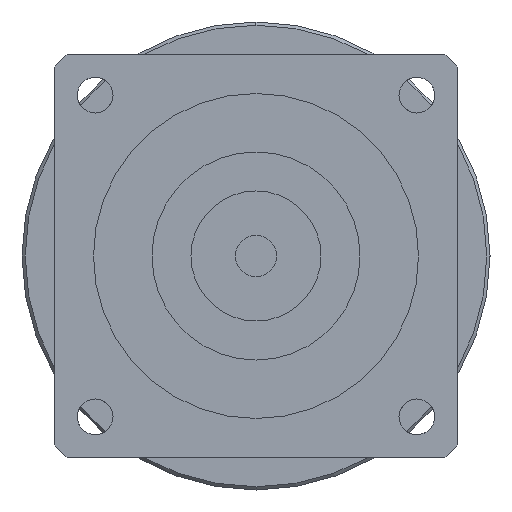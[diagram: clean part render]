
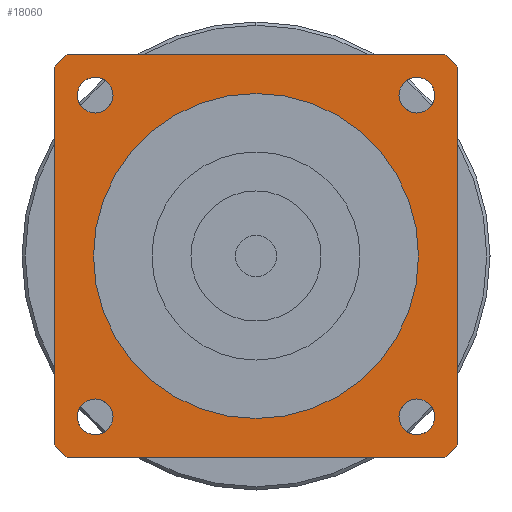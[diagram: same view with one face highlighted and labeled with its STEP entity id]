
A CAD part, left-side view. The second image highlights one B-rep face of the part: STEP entity #18060.
In plain terms, the highlighted planar face has unit normal (-1, 0, 0) as drawn and (0, 0, -1) by its records, which use the part's own axes.
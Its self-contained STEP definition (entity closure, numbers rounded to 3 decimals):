
#12210=CARTESIAN_POINT('',(29.073,31.,-96.5));
#12220=VERTEX_POINT('',#12210);
#12250=CARTESIAN_POINT('',(0.,0.,
-96.5));
#12260=DIRECTION('',(0.,0.,1.));
#12270=DIRECTION('',(0.,-1.,0.));
#12280=AXIS2_PLACEMENT_3D('',#12250,#12260,#12270);
#12290=CIRCLE('',#12280,42.5);
#12300=CARTESIAN_POINT('',(31.,29.073,-96.5));
#12310=VERTEX_POINT('',#12300);
#12320=EDGE_CURVE('',#12310,#12220,#12290,.T.);
#12630=CARTESIAN_POINT('',(-31.,29.073,-96.5));
#12640=VERTEX_POINT('',#12630);
#12820=CARTESIAN_POINT('',(-31.,-29.073,-96.5));
#12830=VERTEX_POINT('',#12820);
#12860=CARTESIAN_POINT('',(-31.,31.,-96.5));
#12870=DIRECTION('',(0.,-1.,0.));
#12880=VECTOR('',#12870,1000.);
#12890=LINE('',#12860,#12880);
#12900=EDGE_CURVE('',#12640,#12830,#12890,.T.);
#15260=CARTESIAN_POINT('',(-29.073,-31.,-96.5));
#15270=VERTEX_POINT('',#15260);
#15300=CARTESIAN_POINT('',(0.,0.,
-96.5));
#15310=DIRECTION('',(0.,0.,1.));
#15320=DIRECTION('',(0.,-1.,0.));
#15330=AXIS2_PLACEMENT_3D('',#15300,#15310,#15320);
#15340=CIRCLE('',#15330,42.5);
#15350=EDGE_CURVE('',#12830,#15270,#15340,.T.);
#15840=CARTESIAN_POINT('',(29.073,-31.,-96.5));
#15850=VERTEX_POINT('',#15840);
#15930=CARTESIAN_POINT('',(31.,-29.073,-96.5));
#15940=VERTEX_POINT('',#15930);
#15970=CARTESIAN_POINT('',(0.,0.,
-96.5));
#15980=DIRECTION('',(0.,0.,1.));
#15990=DIRECTION('',(0.,-1.,0.));
#16000=AXIS2_PLACEMENT_3D('',#15970,#15980,#15990);
#16010=CIRCLE('',#16000,42.5);
#16020=EDGE_CURVE('',#15850,#15940,#16010,.T.);
#16280=CARTESIAN_POINT('',(-29.073,31.,-96.5));
#16290=VERTEX_POINT('',#16280);
#16320=CARTESIAN_POINT('',(31.,31.,-96.5));
#16330=DIRECTION('',(-1.,0.,0.));
#16340=VECTOR('',#16330,1000.);
#16350=LINE('',#16320,#16340);
#16360=EDGE_CURVE('',#12220,#16290,#16350,.T.);
#16760=CARTESIAN_POINT('',(0.,0.,
-96.5));
#16770=DIRECTION('',(0.,0.,1.));
#16780=DIRECTION('',(0.,-1.,0.));
#16790=AXIS2_PLACEMENT_3D('',#16760,#16770,#16780);
#16800=CIRCLE('',#16790,42.5);
#16810=EDGE_CURVE('',#16290,#12640,#16800,.T.);
#16860=CARTESIAN_POINT('',(-31.,31.,-96.5));
#16870=DIRECTION('',(0.,0.,1.));
#16880=DIRECTION('',(-1.,0.,0.));
#16890=AXIS2_PLACEMENT_3D('',#16860,#16870,#16880);
#16900=PLANE('',#16890);
#16910=CARTESIAN_POINT('',(24.749,-24.749,-96.5));
#16920=DIRECTION('',(0.,0.,-1.));
#16930=DIRECTION('',(1.,0.,0.));
#16940=AXIS2_PLACEMENT_3D('',#16910,#16920,#16930);
#16950=CIRCLE('',#16940,2.75);
#16960=CARTESIAN_POINT('',(27.499,-24.749,-96.5));
#16970=VERTEX_POINT('',#16960);
#16980=CARTESIAN_POINT('',(24.749,-27.499,-96.5));
#16990=VERTEX_POINT('',#16980);
#17000=EDGE_CURVE('',#16970,#16990,#16950,.T.);
#17010=ORIENTED_EDGE('',*,*,#17000,.F.);
#17020=CARTESIAN_POINT('',(24.749,-21.999,-96.5));
#17030=VERTEX_POINT('',#17020);
#17040=EDGE_CURVE('',#16990,#17030,#16950,.T.);
#17050=ORIENTED_EDGE('',*,*,#17040,.F.);
#17060=EDGE_CURVE('',#17030,#16970,#16950,.T.);
#17070=ORIENTED_EDGE('',*,*,#17060,.F.);
#17080=EDGE_LOOP('',(#17070,#17050,#17010));
#17090=FACE_BOUND('',#17080,.T.);
#17100=CARTESIAN_POINT('',(24.749,24.749,-96.5));
#17110=DIRECTION('',(0.,0.,-1.));
#17120=DIRECTION('',(0.,1.,0.));
#17130=AXIS2_PLACEMENT_3D('',#17100,#17110,#17120);
#17140=CIRCLE('',#17130,2.75);
#17150=CARTESIAN_POINT('',(24.749,27.499,-96.5));
#17160=VERTEX_POINT('',#17150);
#17170=CARTESIAN_POINT('',(27.499,24.749,-96.5));
#17180=VERTEX_POINT('',#17170);
#17190=EDGE_CURVE('',#17160,#17180,#17140,.T.);
#17200=ORIENTED_EDGE('',*,*,#17190,.F.);
#17210=CARTESIAN_POINT('',(21.999,24.749,-96.5));
#17220=VERTEX_POINT('',#17210);
#17230=EDGE_CURVE('',#17180,#17220,#17140,.T.);
#17240=ORIENTED_EDGE('',*,*,#17230,.F.);
#17250=EDGE_CURVE('',#17220,#17160,#17140,.T.);
#17260=ORIENTED_EDGE('',*,*,#17250,.F.);
#17270=EDGE_LOOP('',(#17260,#17240,#17200));
#17280=FACE_BOUND('',#17270,.T.);
#17290=CARTESIAN_POINT('',(-24.749,24.749,-96.5));
#17300=DIRECTION('',(0.,0.,-1.));
#17310=DIRECTION('',(-1.,0.,0.));
#17320=AXIS2_PLACEMENT_3D('',#17290,#17300,#17310);
#17330=CIRCLE('',#17320,2.75);
#17340=CARTESIAN_POINT('',(-27.499,24.749,-96.5));
#17350=VERTEX_POINT('',#17340);
#17360=CARTESIAN_POINT('',(-24.749,27.499,-96.5));
#17370=VERTEX_POINT('',#17360);
#17380=EDGE_CURVE('',#17350,#17370,#17330,.T.);
#17390=ORIENTED_EDGE('',*,*,#17380,.F.);
#17400=CARTESIAN_POINT('',(-24.749,21.999,-96.5));
#17410=VERTEX_POINT('',#17400);
#17420=EDGE_CURVE('',#17370,#17410,#17330,.T.);
#17430=ORIENTED_EDGE('',*,*,#17420,.F.);
#17440=EDGE_CURVE('',#17410,#17350,#17330,.T.);
#17450=ORIENTED_EDGE('',*,*,#17440,.F.);
#17460=EDGE_LOOP('',(#17450,#17430,#17390));
#17470=FACE_BOUND('',#17460,.T.);
#17480=CARTESIAN_POINT('',(-24.749,-24.749,-96.5));
#17490=DIRECTION('',(0.,0.,-1.));
#17500=DIRECTION('',(0.,-1.,0.));
#17510=AXIS2_PLACEMENT_3D('',#17480,#17490,#17500);
#17520=CIRCLE('',#17510,2.75);
#17530=CARTESIAN_POINT('',(-24.749,-27.499,-96.5));
#17540=VERTEX_POINT('',#17530);
#17550=CARTESIAN_POINT('',(-27.499,-24.749,-96.5));
#17560=VERTEX_POINT('',#17550);
#17570=EDGE_CURVE('',#17540,#17560,#17520,.T.);
#17580=ORIENTED_EDGE('',*,*,#17570,.F.);
#17590=CARTESIAN_POINT('',(-21.999,-24.749,-96.5));
#17600=VERTEX_POINT('',#17590);
#17610=EDGE_CURVE('',#17560,#17600,#17520,.T.);
#17620=ORIENTED_EDGE('',*,*,#17610,.F.);
#17630=EDGE_CURVE('',#17600,#17540,#17520,.T.);
#17640=ORIENTED_EDGE('',*,*,#17630,.F.);
#17650=EDGE_LOOP('',(#17640,#17620,#17580));
#17660=FACE_BOUND('',#17650,.T.);
#17670=ORIENTED_EDGE('',*,*,#15350,.F.);
#17680=CARTESIAN_POINT('',(-31.,-31.,-96.5));
#17690=DIRECTION('',(1.,0.,0.));
#17700=VECTOR('',#17690,1000.);
#17710=LINE('',#17680,#17700);
#17720=EDGE_CURVE('',#15270,#15850,#17710,.T.);
#17730=ORIENTED_EDGE('',*,*,#17720,.F.);
#17740=ORIENTED_EDGE('',*,*,#16020,.F.);
#17750=CARTESIAN_POINT('',(31.,-31.,-96.5));
#17760=DIRECTION('',(0.,1.,0.));
#17770=VECTOR('',#17760,1000.);
#17780=LINE('',#17750,#17770);
#17790=EDGE_CURVE('',#15940,#12310,#17780,.T.);
#17800=ORIENTED_EDGE('',*,*,#17790,.F.);
#17810=ORIENTED_EDGE('',*,*,#12320,.F.);
#17820=ORIENTED_EDGE('',*,*,#16360,.F.);
#17830=ORIENTED_EDGE('',*,*,#16810,.F.);
#17840=ORIENTED_EDGE('',*,*,#12900,.F.);
#17850=EDGE_LOOP('',(#17840,#17830,#17820,#17810,#17800,#17740,#17730,
#17670));
#17860=FACE_OUTER_BOUND('',#17850,.T.);
#17870=CARTESIAN_POINT('',(0.,0.,
-96.5));
#17880=DIRECTION('',(0.,0.,1.));
#17890=DIRECTION('',(0.,-1.,0.));
#17900=AXIS2_PLACEMENT_3D('',#17870,#17880,#17890);
#17910=CIRCLE('',#17900,25.);
#17920=CARTESIAN_POINT('',(25.,0.,-96.5));
#17930=VERTEX_POINT('',#17920);
#17940=CARTESIAN_POINT('',(-25.,0.,-96.5));
#17950=VERTEX_POINT('',#17940);
#17960=EDGE_CURVE('',#17930,#17950,#17910,.T.);
#17970=ORIENTED_EDGE('',*,*,#17960,.T.);
#17980=CARTESIAN_POINT('',(0.,-25.,-96.5));
#17990=VERTEX_POINT('',#17980);
#18000=EDGE_CURVE('',#17990,#17930,#17910,.T.);
#18010=ORIENTED_EDGE('',*,*,#18000,.T.);
#18020=EDGE_CURVE('',#17950,#17990,#17910,.T.);
#18030=ORIENTED_EDGE('',*,*,#18020,.T.);
#18040=EDGE_LOOP('',(#18030,#18010,#17970));
#18050=FACE_BOUND('',#18040,.T.);
#18060=ADVANCED_FACE('',(#17090,#17280,#17470,#17660,#17860,#18050),
#16900,.F.);
